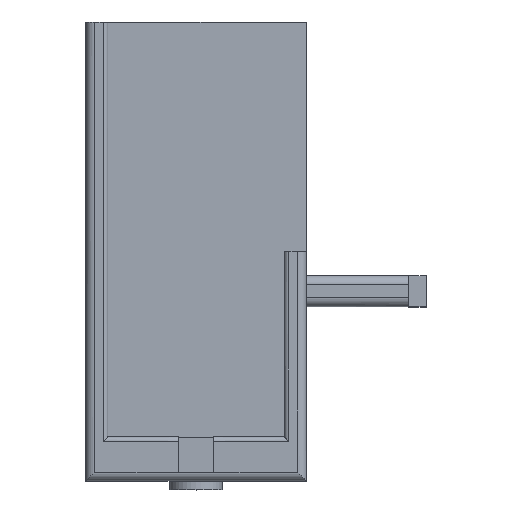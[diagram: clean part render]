
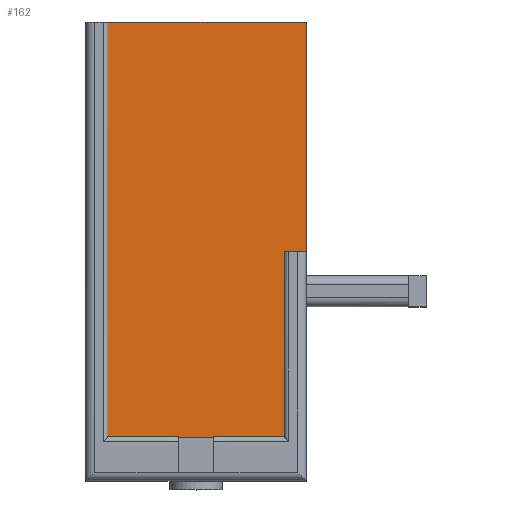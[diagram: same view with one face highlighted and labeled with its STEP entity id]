
A CAD part, top view. The second image highlights one B-rep face of the part: STEP entity #162.
In plain terms, the highlighted planar face has unit normal (0, 0, 1).
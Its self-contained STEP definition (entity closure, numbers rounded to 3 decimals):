
#12 = CARTESIAN_POINT ( 'NONE',  ( 3.716, 52., 0.71 ) ) ;
#22 = DIRECTION ( 'NONE',  ( 0., 0., -1. ) ) ;
#25 = VERTEX_POINT ( 'NONE', #527 ) ;
#66 = CARTESIAN_POINT ( 'NONE',  ( 3.716, 10., 0.71 ) ) ;
#72 = EDGE_LOOP ( 'NONE', ( #2087, #452, #426, #147, #2378, #1450 ) ) ;
#117 = VERTEX_POINT ( 'NONE', #892 ) ;
#147 = ORIENTED_EDGE ( 'NONE', *, *, #170, .F. ) ;
#150 = LINE ( 'NONE', #915, #574 ) ;
#162 = ADVANCED_FACE ( 'NONE', ( #1166 ), #1177, .F. ) ;
#168 = CARTESIAN_POINT ( 'NONE',  ( -44.284, 64., 0.71 ) ) ;
#170 = EDGE_CURVE ( 'NONE', #777, #25, #1130, .T. ) ;
#234 = VERTEX_POINT ( 'NONE', #2300 ) ;
#253 = LINE ( 'NONE', #659, #1229 ) ;
#426 = ORIENTED_EDGE ( 'NONE', *, *, #1732, .F. ) ;
#452 = ORIENTED_EDGE ( 'NONE', *, *, #1449, .T. ) ;
#520 = DIRECTION ( 'NONE',  ( 0., 1., 0. ) ) ;
#527 = CARTESIAN_POINT ( 'NONE',  ( 5.716, 104., 0.71 ) ) ;
#556 = CARTESIAN_POINT ( 'NONE',  ( 3.716, 64., 0.71 ) ) ;
#574 = VECTOR ( 'NONE', #726, 1000. ) ;
#659 = CARTESIAN_POINT ( 'NONE',  ( 5.716, 64., 0.71 ) ) ;
#726 = DIRECTION ( 'NONE',  ( 1., 0., 0. ) ) ;
#777 = VERTEX_POINT ( 'NONE', #1420 ) ;
#867 = VECTOR ( 'NONE', #2082, 1000. ) ;
#892 = CARTESIAN_POINT ( 'NONE',  ( -42.284, 10., 0.71 ) ) ;
#915 = CARTESIAN_POINT ( 'NONE',  ( -44.284, 10., 0.71 ) ) ;
#916 = EDGE_CURVE ( 'NONE', #117, #777, #1474, .T. ) ;
#934 = DIRECTION ( 'NONE',  ( 1., 0., 0. ) ) ;
#979 = VECTOR ( 'NONE', #520, 1000. ) ;
#1019 = EDGE_CURVE ( 'NONE', #1291, #1168, #2117, .T. ) ;
#1130 = LINE ( 'NONE', #2104, #2373 ) ;
#1166 = FACE_OUTER_BOUND ( 'NONE', #72, .T. ) ;
#1168 = VERTEX_POINT ( 'NONE', #66 ) ;
#1177 = PLANE ( 'NONE',  #1302 ) ;
#1229 = VECTOR ( 'NONE', #1422, 1000. ) ;
#1291 = VERTEX_POINT ( 'NONE', #12 ) ;
#1302 = AXIS2_PLACEMENT_3D ( 'NONE', #168, #22, #1341 ) ;
#1341 = DIRECTION ( 'NONE',  ( -1., 0., 0. ) ) ;
#1420 = CARTESIAN_POINT ( 'NONE',  ( -42.284, 104., 0.71 ) ) ;
#1422 = DIRECTION ( 'NONE',  ( 0., -1., 0. ) ) ;
#1449 = EDGE_CURVE ( 'NONE', #1291, #234, #2276, .T. ) ;
#1450 = ORIENTED_EDGE ( 'NONE', *, *, #2425, .T. ) ;
#1474 = LINE ( 'NONE', #2238, #979 ) ;
#1636 = VECTOR ( 'NONE', #2421, 1000. ) ;
#1696 = CARTESIAN_POINT ( 'NONE',  ( -44.284, 52., 0.71 ) ) ;
#1732 = EDGE_CURVE ( 'NONE', #25, #234, #253, .T. ) ;
#2082 = DIRECTION ( 'NONE',  ( 0., -1., 0. ) ) ;
#2087 = ORIENTED_EDGE ( 'NONE', *, *, #1019, .F. ) ;
#2104 = CARTESIAN_POINT ( 'NONE',  ( 5.716, 104., 0.71 ) ) ;
#2117 = LINE ( 'NONE', #556, #867 ) ;
#2238 = CARTESIAN_POINT ( 'NONE',  ( -42.284, 64., 0.71 ) ) ;
#2276 = LINE ( 'NONE', #1696, #1636 ) ;
#2300 = CARTESIAN_POINT ( 'NONE',  ( 5.716, 52., 0.71 ) ) ;
#2373 = VECTOR ( 'NONE', #934, 1000. ) ;
#2378 = ORIENTED_EDGE ( 'NONE', *, *, #916, .F. ) ;
#2421 = DIRECTION ( 'NONE',  ( 1., 0., 0. ) ) ;
#2425 = EDGE_CURVE ( 'NONE', #117, #1168, #150, .T. ) ;
